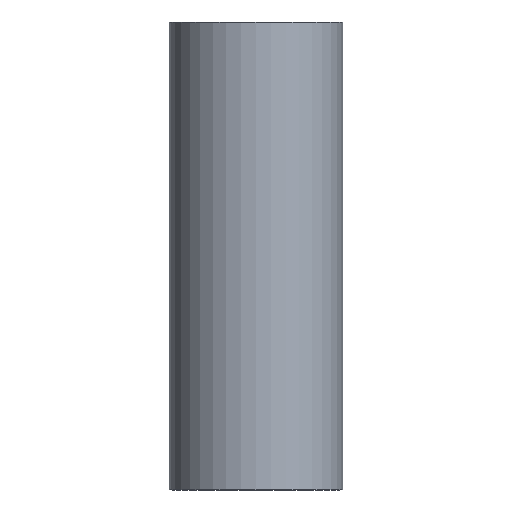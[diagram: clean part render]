
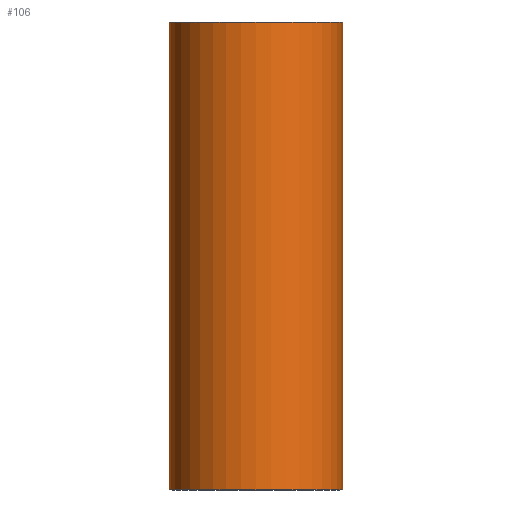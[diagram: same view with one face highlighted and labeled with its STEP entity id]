
A CAD part, left-side view. The second image highlights one B-rep face of the part: STEP entity #106.
In plain terms, the highlighted cylindrical face has radius 100 mm (diameter 200 mm), a full revolution.
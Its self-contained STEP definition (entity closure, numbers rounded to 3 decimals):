
#23=FACE_BOUND('',#47,.T.);
#24=FACE_BOUND('',#48,.T.);
#27=B_SPLINE_CURVE_WITH_KNOTS('',3,(#273,#274,#275,#276,#277,#278,#279,
#280,#281,#282,#283,#284,#285,#286,#287,#288,#289,#290,#291,#292,#293,#294,
#295,#296,#297,#298,#299,#300,#301,#302,#303,#304,#305,#306,#307,#308,#309,
#310,#311,#312,#313,#314,#315,#316,#317,#318,#319,#320,#321,#322,#323,#324,
#325,#326,#327,#328,#329,#330,#331,#332,#333,#334,#335,#336,#337,#338,#339,
#340,#341,#342,#343,#344,#345,#346,#347,#348,#349,#350,#351,#352,#353,#354,
#355,#356,#357,#358),.UNSPECIFIED.,.T.,.F.,(4,2,2,2,2,2,2,2,2,2,2,2,2,2,
2,2,2,2,2,2,2,2,2,2,2,2,2,2,2,2,2,2,2,2,2,2,2,2,2,2,2,2,4),(0.,1.263,
2.527,5.054,7.581,10.108,12.704,
15.301,16.005,16.709,17.413,18.118,
18.822,19.526,20.23,20.935,23.531,
26.128,28.655,31.181,33.708,34.972,
36.235,37.894,38.723,39.553,40.382,
41.212,42.87,44.412,45.954,47.496,
49.038,50.58,52.122,53.663,55.205,
56.864,57.693,58.523,59.352,60.182,
61.84),.UNSPECIFIED.);
#33=FACE_OUTER_BOUND('',#46,.T.);
#46=EDGE_LOOP('',(#84));
#47=EDGE_LOOP('',(#85));
#48=EDGE_LOOP('',(#86));
#55=CIRCLE('',#137,100.);
#56=CIRCLE('',#139,100.);
#62=VERTEX_POINT('',#272);
#63=VERTEX_POINT('',#361);
#64=VERTEX_POINT('',#364);
#70=EDGE_CURVE('',#62,#62,#27,.T.);
#71=EDGE_CURVE('',#63,#63,#55,.T.);
#72=EDGE_CURVE('',#64,#64,#56,.T.);
#84=ORIENTED_EDGE('',*,*,#71,.T.);
#85=ORIENTED_EDGE('',*,*,#70,.T.);
#86=ORIENTED_EDGE('',*,*,#72,.F.);
#92=CYLINDRICAL_SURFACE('',#138,100.);
#106=ADVANCED_FACE('',(#33,#23,#24),#92,.T.);
#137=AXIS2_PLACEMENT_3D('',#362,#161,#162);
#138=AXIS2_PLACEMENT_3D('',#363,#163,#164);
#139=AXIS2_PLACEMENT_3D('',#365,#165,#166);
#161=DIRECTION('center_axis',(0.,0.,-1.));
#162=DIRECTION('ref_axis',(1.,0.,0.));
#163=DIRECTION('center_axis',(0.,0.,-1.));
#164=DIRECTION('ref_axis',(-1.,0.,0.));
#165=DIRECTION('center_axis',(0.,0.,-1.));
#166=DIRECTION('ref_axis',(1.,0.,0.));
#272=CARTESIAN_POINT('',(60.,-80.,240.));
#273=CARTESIAN_POINT('Ctrl Pts',(60.,-80.,240.));
#274=CARTESIAN_POINT('Ctrl Pts',(60.,-80.,244.212));
#275=CARTESIAN_POINT('Ctrl Pts',(60.221,-79.835,248.472));
#276=CARTESIAN_POINT('Ctrl Pts',(61.003,-79.239,257.057));
#277=CARTESIAN_POINT('Ctrl Pts',(61.564,-78.807,261.382));
#278=CARTESIAN_POINT('Ctrl Pts',(63.629,-77.165,274.401));
#279=CARTESIAN_POINT('Ctrl Pts',(65.509,-75.61,283.14));
#280=CARTESIAN_POINT('Ctrl Pts',(69.754,-71.712,300.396));
#281=CARTESIAN_POINT('Ctrl Pts',(72.122,-69.366,308.907));
#282=CARTESIAN_POINT('Ctrl Pts',(76.963,-63.952,325.288));
#283=CARTESIAN_POINT('Ctrl Pts',(79.439,-60.882,333.157));
#284=CARTESIAN_POINT('Ctrl Pts',(84.267,-54.01,348.028));
#285=CARTESIAN_POINT('Ctrl Pts',(86.968,-49.695,356.06));
#286=CARTESIAN_POINT('Ctrl Pts',(92.081,-39.421,370.917));
#287=CARTESIAN_POINT('Ctrl Pts',(94.49,-33.459,377.742));
#288=CARTESIAN_POINT('Ctrl Pts',(96.846,-24.988,384.356));
#289=CARTESIAN_POINT('Ctrl Pts',(97.339,-23.015,385.737));
#290=CARTESIAN_POINT('Ctrl Pts',(98.238,-18.811,388.246));
#291=CARTESIAN_POINT('Ctrl Pts',(98.643,-16.581,389.374));
#292=CARTESIAN_POINT('Ctrl Pts',(99.309,-11.962,391.224));
#293=CARTESIAN_POINT('Ctrl Pts',(99.57,-9.571,391.946));
#294=CARTESIAN_POINT('Ctrl Pts',(99.916,-4.764,392.903));
#295=CARTESIAN_POINT('Ctrl Pts',(100.,-2.347,393.137));
#296=CARTESIAN_POINT('Ctrl Pts',(100.,2.347,393.137));
#297=CARTESIAN_POINT('Ctrl Pts',(99.916,4.764,392.903));
#298=CARTESIAN_POINT('Ctrl Pts',(99.57,9.571,391.946));
#299=CARTESIAN_POINT('Ctrl Pts',(99.309,11.962,391.224));
#300=CARTESIAN_POINT('Ctrl Pts',(98.643,16.581,389.374));
#301=CARTESIAN_POINT('Ctrl Pts',(98.238,18.811,388.246));
#302=CARTESIAN_POINT('Ctrl Pts',(97.339,23.015,385.737));
#303=CARTESIAN_POINT('Ctrl Pts',(96.846,24.988,384.356));
#304=CARTESIAN_POINT('Ctrl Pts',(94.49,33.459,377.742));
#305=CARTESIAN_POINT('Ctrl Pts',(92.081,39.421,370.917));
#306=CARTESIAN_POINT('Ctrl Pts',(86.968,49.695,356.06));
#307=CARTESIAN_POINT('Ctrl Pts',(84.267,54.01,348.028));
#308=CARTESIAN_POINT('Ctrl Pts',(79.439,60.882,333.157));
#309=CARTESIAN_POINT('Ctrl Pts',(76.963,63.952,325.288));
#310=CARTESIAN_POINT('Ctrl Pts',(72.122,69.366,308.907));
#311=CARTESIAN_POINT('Ctrl Pts',(69.754,71.712,300.396));
#312=CARTESIAN_POINT('Ctrl Pts',(65.509,75.61,283.14));
#313=CARTESIAN_POINT('Ctrl Pts',(63.629,77.165,274.401));
#314=CARTESIAN_POINT('Ctrl Pts',(61.564,78.807,261.382));
#315=CARTESIAN_POINT('Ctrl Pts',(61.003,79.239,257.057));
#316=CARTESIAN_POINT('Ctrl Pts',(60.221,79.835,248.472));
#317=CARTESIAN_POINT('Ctrl Pts',(60.,80.,244.212));
#318=CARTESIAN_POINT('Ctrl Pts',(60.,80.,234.471));
#319=CARTESIAN_POINT('Ctrl Pts',(60.394,79.713,228.721));
#320=CARTESIAN_POINT('Ctrl Pts',(61.862,78.572,220.319));
#321=CARTESIAN_POINT('Ctrl Pts',(62.495,78.073,217.554));
#322=CARTESIAN_POINT('Ctrl Pts',(64.05,76.803,212.182));
#323=CARTESIAN_POINT('Ctrl Pts',(64.971,76.031,209.575));
#324=CARTESIAN_POINT('Ctrl Pts',(67.057,74.197,204.587));
#325=CARTESIAN_POINT('Ctrl Pts',(68.225,73.132,202.197));
#326=CARTESIAN_POINT('Ctrl Pts',(70.735,70.708,197.668));
#327=CARTESIAN_POINT('Ctrl Pts',(72.076,69.348,195.53));
#328=CARTESIAN_POINT('Ctrl Pts',(76.214,64.869,189.523));
#329=CARTESIAN_POINT('Ctrl Pts',(79.12,61.336,186.066));
#330=CARTESIAN_POINT('Ctrl Pts',(84.331,53.92,180.438));
#331=CARTESIAN_POINT('Ctrl Pts',(86.819,49.871,178.03));
#332=CARTESIAN_POINT('Ctrl Pts',(91.33,41.03,173.909));
#333=CARTESIAN_POINT('Ctrl Pts',(93.352,36.239,172.195));
#334=CARTESIAN_POINT('Ctrl Pts',(96.645,26.222,169.481));
#335=CARTESIAN_POINT('Ctrl Pts',(97.918,20.989,168.48));
#336=CARTESIAN_POINT('Ctrl Pts',(99.596,10.448,167.17));
#337=CARTESIAN_POINT('Ctrl Pts',(100.,5.14,166.863));
#338=CARTESIAN_POINT('Ctrl Pts',(100.,-5.14,166.863));
#339=CARTESIAN_POINT('Ctrl Pts',(99.596,-10.448,167.17));
#340=CARTESIAN_POINT('Ctrl Pts',(97.918,-20.989,168.48));
#341=CARTESIAN_POINT('Ctrl Pts',(96.645,-26.222,169.481));
#342=CARTESIAN_POINT('Ctrl Pts',(93.352,-36.239,172.195));
#343=CARTESIAN_POINT('Ctrl Pts',(91.33,-41.03,173.909));
#344=CARTESIAN_POINT('Ctrl Pts',(86.819,-49.871,178.03));
#345=CARTESIAN_POINT('Ctrl Pts',(84.331,-53.92,180.438));
#346=CARTESIAN_POINT('Ctrl Pts',(79.12,-61.336,186.066));
#347=CARTESIAN_POINT('Ctrl Pts',(76.214,-64.869,189.523));
#348=CARTESIAN_POINT('Ctrl Pts',(72.076,-69.348,195.53));
#349=CARTESIAN_POINT('Ctrl Pts',(70.735,-70.708,197.668));
#350=CARTESIAN_POINT('Ctrl Pts',(68.225,-73.132,202.197));
#351=CARTESIAN_POINT('Ctrl Pts',(67.057,-74.197,204.587));
#352=CARTESIAN_POINT('Ctrl Pts',(64.971,-76.031,209.575));
#353=CARTESIAN_POINT('Ctrl Pts',(64.05,-76.803,212.182));
#354=CARTESIAN_POINT('Ctrl Pts',(62.495,-78.073,217.554));
#355=CARTESIAN_POINT('Ctrl Pts',(61.862,-78.572,220.319));
#356=CARTESIAN_POINT('Ctrl Pts',(60.394,-79.713,228.721));
#357=CARTESIAN_POINT('Ctrl Pts',(60.,-80.,234.471));
#358=CARTESIAN_POINT('Ctrl Pts',(60.,-80.,240.));
#361=CARTESIAN_POINT('',(-100.,0.,540.));
#362=CARTESIAN_POINT('Origin',(0.,0.,540.));
#363=CARTESIAN_POINT('Origin',(0.,0.,270.));
#364=CARTESIAN_POINT('',(-100.,0.,0.));
#365=CARTESIAN_POINT('Origin',(0.,0.,0.));
